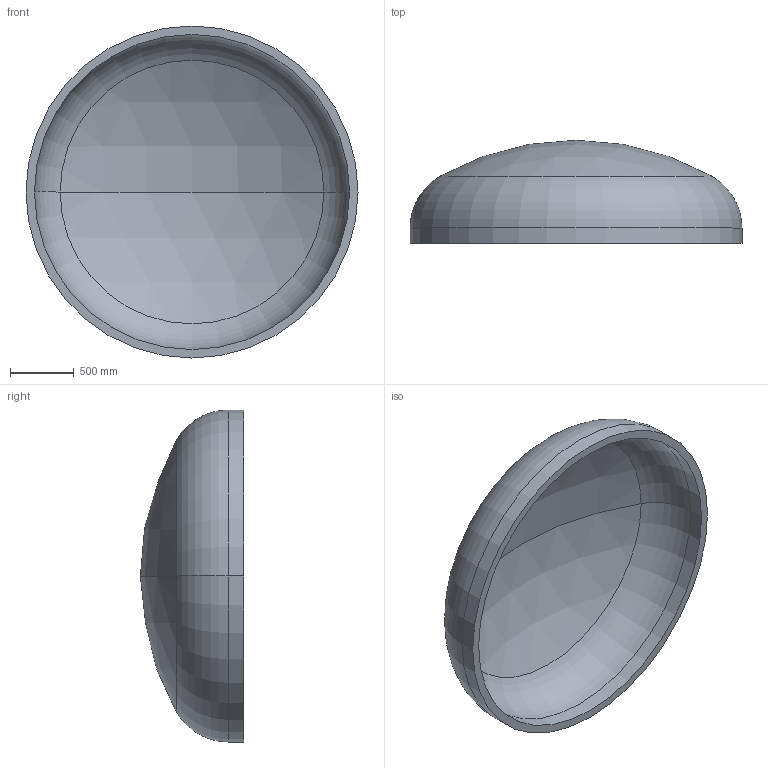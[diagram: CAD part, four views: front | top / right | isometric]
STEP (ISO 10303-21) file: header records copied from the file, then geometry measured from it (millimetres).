
FILE_DESCRIPTION (( 'STEP AP203' ), '1' );
FILE_NAME ('DIN 28013 Korbbogenform_-_Boden DIN 28013 - 2600 x 120 - I - s=66.step', '2016-07-01T16:20:53', ( '' ), ( '' ), 'SwSTEP 2.0', 'SolidWorks 2013', '' );
FILE_SCHEMA (( 'CONFIG_CONTROL_DESIGN' ));
Length unit declared in the file: millimetre
Products named in the file (1): DIN 28013 Korbbogenform_-_Boden DIN 28013 - 2600 x 120 - I - s=66
Bounding box: 2600 x 807.63 x 2600 mm (x, y, z)
Volume: 532385200.1 mm3; surface area: 16667415.3 mm2
Topology: 1 solids, 1 shells, 13 faces, 24 edges, 14 vertices
Faces by surface type: torus 4, cylinder 4, sphere 4, plane 1
Entity records: 407 total; most frequent: DIRECTION 72, CARTESIAN_POINT 52, ORIENTED_EDGE 48, AXIS2_PLACEMENT_3D 34, EDGE_CURVE 24, CIRCLE 20, VERTEX_POINT 14, EDGE_LOOP 14
